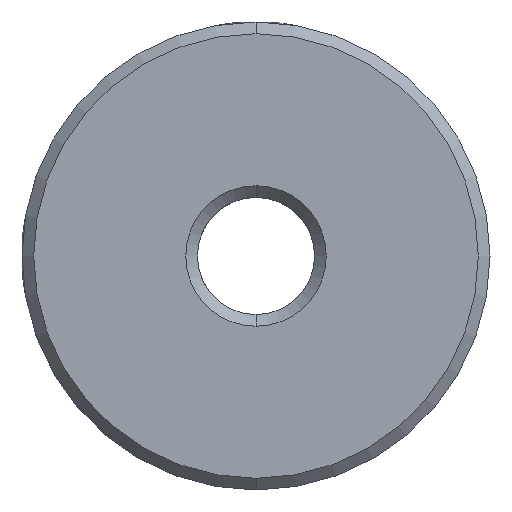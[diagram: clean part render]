
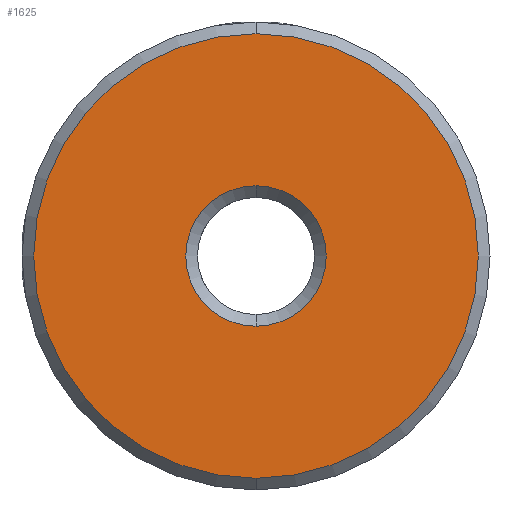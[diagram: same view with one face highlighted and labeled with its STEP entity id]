
A CAD part, front view. The second image highlights one B-rep face of the part: STEP entity #1625.
In plain terms, the highlighted planar face has unit normal (0, -1, 0).
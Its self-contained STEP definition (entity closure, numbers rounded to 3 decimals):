
#70 = DIRECTION ( 'NONE',  ( 0., 0., 1. ) ) ;
#315 = AXIS2_PLACEMENT_3D ( 'NONE', #2597, #1429, #70 ) ;
#337 = CARTESIAN_POINT ( 'NONE',  ( -10.188, -0.277, 0.046 ) ) ;
#443 = AXIS2_PLACEMENT_3D ( 'NONE', #337, #1468, #1415 ) ;
#546 = CIRCLE ( 'NONE', #3379, 3. ) ;
#587 = DIRECTION ( 'NONE',  ( 0., 0., 1. ) ) ;
#641 = DIRECTION ( 'NONE',  ( 0., 1., 0. ) ) ;
#938 = AXIS2_PLACEMENT_3D ( 'NONE', #1263, #2377, #1645 ) ;
#1058 = CIRCLE ( 'NONE', #443, 9.5 ) ;
#1097 = CIRCLE ( 'NONE', #315, 9.5 ) ;
#1155 = EDGE_LOOP ( 'NONE', ( #2880, #2645 ) ) ;
#1244 = FACE_OUTER_BOUND ( 'NONE', #1155, .T. ) ;
#1263 = CARTESIAN_POINT ( 'NONE',  ( -10.188, -0.277, 0.046 ) ) ;
#1268 = CIRCLE ( 'NONE', #1856, 3. ) ;
#1415 = DIRECTION ( 'NONE',  ( 0., 0., 1. ) ) ;
#1429 = DIRECTION ( 'NONE',  ( 0., -1., 0. ) ) ;
#1435 = CARTESIAN_POINT ( 'NONE',  ( -10.188, -0.277, 0.046 ) ) ;
#1468 = DIRECTION ( 'NONE',  ( 0., -1., 0. ) ) ;
#1625 = ADVANCED_FACE ( 'NONE', ( #1244, #2355 ), #3481, .F. ) ;
#1645 = DIRECTION ( 'NONE',  ( 0., 0., 1. ) ) ;
#1714 = VERTEX_POINT ( 'NONE', #3562 ) ;
#1752 = ORIENTED_EDGE ( 'NONE', *, *, #2215, .T. ) ;
#1806 = CARTESIAN_POINT ( 'NONE',  ( -10.188, -0.277, -2.954 ) ) ;
#1823 = EDGE_CURVE ( 'NONE', #1948, #1714, #1097, .T. ) ;
#1839 = EDGE_CURVE ( 'NONE', #2417, #2323, #1268, .T. ) ;
#1856 = AXIS2_PLACEMENT_3D ( 'NONE', #3425, #1939, #587 ) ;
#1912 = EDGE_LOOP ( 'NONE', ( #3258, #1752 ) ) ;
#1939 = DIRECTION ( 'NONE',  ( 0., 1., 0. ) ) ;
#1948 = VERTEX_POINT ( 'NONE', #2369 ) ;
#2007 = DIRECTION ( 'NONE',  ( 0., 0., 1. ) ) ;
#2215 = EDGE_CURVE ( 'NONE', #2323, #2417, #546, .T. ) ;
#2323 = VERTEX_POINT ( 'NONE', #2894 ) ;
#2355 = FACE_BOUND ( 'NONE', #1912, .T. ) ;
#2369 = CARTESIAN_POINT ( 'NONE',  ( -10.188, -0.277, -9.454 ) ) ;
#2377 = DIRECTION ( 'NONE',  ( 0., 1., 0. ) ) ;
#2417 = VERTEX_POINT ( 'NONE', #1806 ) ;
#2597 = CARTESIAN_POINT ( 'NONE',  ( -10.188, -0.277, 0.046 ) ) ;
#2645 = ORIENTED_EDGE ( 'NONE', *, *, #1823, .T. ) ;
#2880 = ORIENTED_EDGE ( 'NONE', *, *, #2941, .T. ) ;
#2894 = CARTESIAN_POINT ( 'NONE',  ( -10.188, -0.277, 3.046 ) ) ;
#2941 = EDGE_CURVE ( 'NONE', #1714, #1948, #1058, .T. ) ;
#3258 = ORIENTED_EDGE ( 'NONE', *, *, #1839, .T. ) ;
#3379 = AXIS2_PLACEMENT_3D ( 'NONE', #1435, #641, #2007 ) ;
#3425 = CARTESIAN_POINT ( 'NONE',  ( -10.188, -0.277, 0.046 ) ) ;
#3481 = PLANE ( 'NONE',  #938 ) ;
#3562 = CARTESIAN_POINT ( 'NONE',  ( -10.188, -0.277, 9.546 ) ) ;
